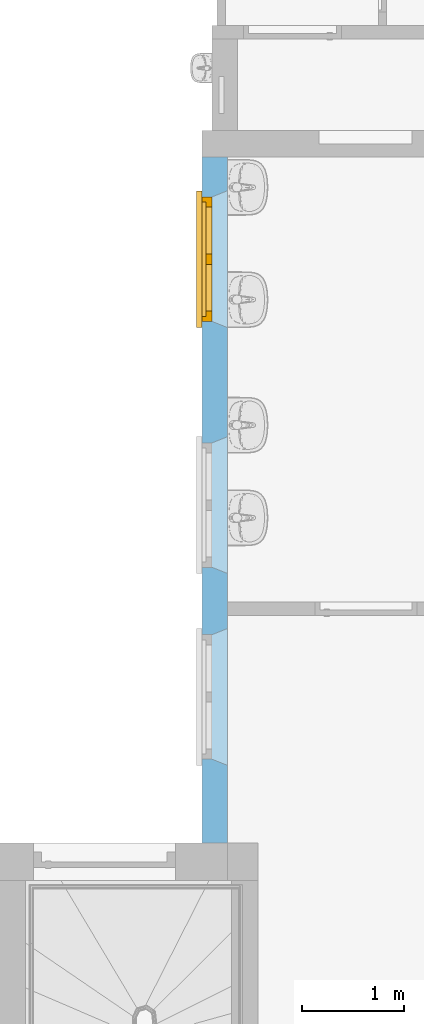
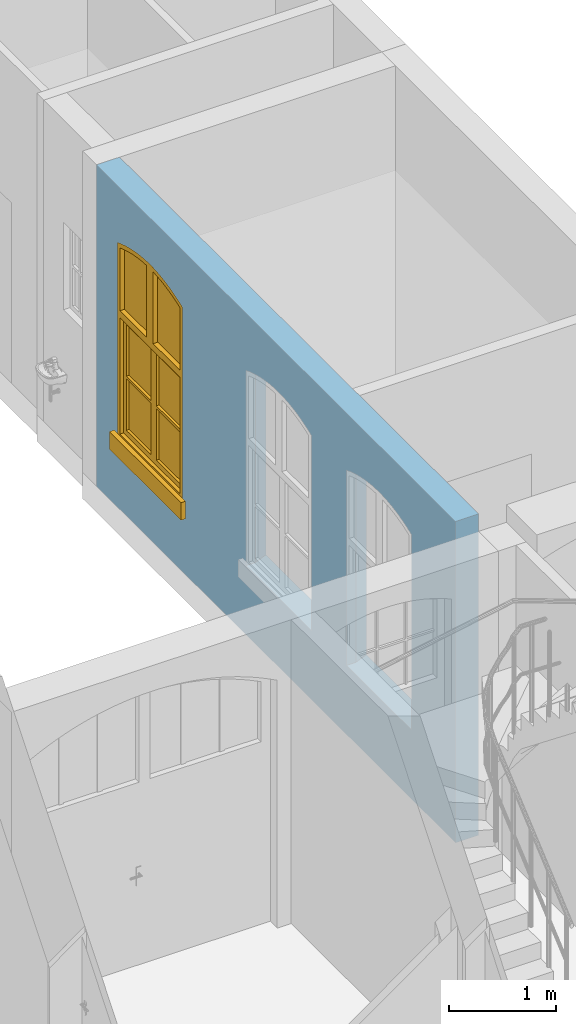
"""IFC4 building model written with IfcOpenShell, lengths in metres."""

import ifcopenshell
import ifcopenshell.guid

model = None  # the IFC model being written
_history = None  # IfcOwnerHistory: only IFC2X3 demands one
_inside = {}  # id of a spatial element -> (the spatial element, [elements in it])
_under = {}  # id of a project, library or spatial element -> (it, [spatial elements below it])
_declared = {}  # id of a project -> (the project, [libraries it declares])
_typed = {}  # id of a type object -> (the type object, [elements of that type])
_made_of = {}  # id of a material, layer set ... -> (it, [elements and type objects made of it])


def new_model(schema):
    """Start an empty IFC model of exactly this schema.

    Asked for "IFC4X3", IfcOpenShell would pick the latest addendum, in which some entities
    have other attributes; the version numbers below select the first issue.
    IFC2X3 requires an IfcOwnerHistory on every rooted entity: one is made here for all.
    """
    global model, _history
    if schema == "IFC4X3":
        model = ifcopenshell.file(schema_version=(4, 3, 0, 0))
    else:
        model = ifcopenshell.file(schema=schema)
    _inside.clear()
    _under.clear()
    _declared.clear()
    _typed.clear()
    _made_of.clear()
    _history = None
    if model.schema == "IFC2X3":
        org = make("IfcOrganization", Name="unknown")
        user = make(
            "IfcPersonAndOrganization",
            ThePerson=make("IfcPerson", FamilyName="unknown"),
            TheOrganization=org,
        )
        app = make(
            "IfcApplication",
            ApplicationDeveloper=org,
            Version="unknown",
            ApplicationFullName="unknown",
            ApplicationIdentifier="unknown",
        )
        _history = make(
            "IfcOwnerHistory",
            OwningUser=user,
            OwningApplication=app,
            ChangeAction="ADDED",
            CreationDate=0,
        )
    return model


def make(cls, **values):
    """One entity of the class cls with the attributes given. An attribute that is None is left unset."""
    return model.create_entity(
        cls, **{name: value for name, value in values.items() if value is not None}
    )


def entity(cls, *values):
    """Any entity or typed value of the class cls, its attributes in the order of the schema. None: left unset."""
    e = model.create_entity(cls)
    for i, value in enumerate(values):
        if value is not None:
            e[i] = value
    return e


def rooted(cls, **values):
    """An entity with a GlobalId (a new one), such as an element, a storey or a relation."""
    return make(cls, GlobalId=ifcopenshell.guid.new(), OwnerHistory=_history, **values)


def si_unit(unit_type, name, prefix=None):
    """IfcSIUnit, for example si_unit("LENGTHUNIT", "METRE", prefix="MILLI")."""
    return make("IfcSIUnit", UnitType=unit_type, Prefix=prefix, Name=name)


def converted_unit(unit_type, name, factor, base, dimensions=None, offset=None):
    """IfcConversionBasedUnit, such as the inch: factor (a typed value) times the base unit."""
    return make(
        "IfcConversionBasedUnit"
        if offset is None
        else "IfcConversionBasedUnitWithOffset",
        ConversionOffset=offset,
        Dimensions=None
        if dimensions is None
        else entity("IfcDimensionalExponents", *dimensions),
        UnitType=unit_type,
        Name=name,
        ConversionFactor=make(
            "IfcMeasureWithUnit", ValueComponent=factor, UnitComponent=base
        ),
    )


def derived_unit(unit_type, elements):
    """IfcDerivedUnit: a product of units, each with its exponent."""
    return make(
        "IfcDerivedUnit",
        Elements=[
            make("IfcDerivedUnitElement", Unit=unit, Exponent=power)
            for unit, power in elements
        ],
        UnitType=unit_type,
    )


def assignment(units):
    """IfcUnitAssignment: the units of a project."""
    return None if units is None else make("IfcUnitAssignment", Units=units)


def point(xyz):
    """IfcCartesianPoint."""
    return None if xyz is None else make("IfcCartesianPoint", Coordinates=xyz)


def direction(xyz):
    """IfcDirection."""
    return None if xyz is None else make("IfcDirection", DirectionRatios=xyz)


def frame(location, z_axis=None, x_axis=None):
    """IfcAxis2Placement3D, a coordinate frame: its origin and axes. An axis left out is left unset."""
    return make(
        "IfcAxis2Placement3D",
        Location=point(location),
        Axis=direction(z_axis),
        RefDirection=direction(x_axis),
    )


def frame_2d(location, x_axis=None):
    """IfcAxis2Placement2D, a coordinate frame in the plane: its origin and x axis."""
    return make(
        "IfcAxis2Placement2D", Location=point(location), RefDirection=direction(x_axis)
    )


def origin():
    """The frame at (0, 0, 0) with its axes left unset."""
    return frame((0.0, 0.0, 0.0))


def origin_with_axes():
    """The frame at (0, 0, 0) with the z axis (0, 0, 1) and the x axis (1, 0, 0) written out."""
    return frame((0.0, 0.0, 0.0), z_axis=(0.0, 0.0, 1.0), x_axis=(1.0, 0.0, 0.0))


def place(relative_to, where):
    """IfcLocalPlacement: puts the frame where relative to a parent placement (None: the world)."""
    return make(
        "IfcLocalPlacement", PlacementRelTo=relative_to, RelativePlacement=where
    )


def context(
    kind, dimensions, precision=None, world=None, true_north=None, identifier=None
):
    """IfcGeometricRepresentationContext, for example the 3D "Model" context."""
    return make(
        "IfcGeometricRepresentationContext",
        ContextIdentifier=identifier,
        ContextType=kind,
        CoordinateSpaceDimension=dimensions,
        Precision=precision,
        WorldCoordinateSystem=world,
        TrueNorth=true_north,
    )


def subcontext(parent, identifier, kind, view, scale=None):
    """IfcGeometricRepresentationSubContext, for example "Body" below "Model"."""
    return make(
        "IfcGeometricRepresentationSubContext",
        ContextIdentifier=identifier,
        ContextType=kind,
        ParentContext=parent,
        TargetScale=scale,
        TargetView=view,
    )


def project(units=None, contexts=None):
    """IfcProject with its units and contexts."""
    return rooted(
        "IfcProject",
        Name="project",
        RepresentationContexts=contexts,
        UnitsInContext=assignment(units),
    )


def spatial(cls, under=None, at=None, **own):
    """A site, building, storey or space (cls), placed at a placement, below another one or the project."""
    s = rooted(cls, ObjectPlacement=at, **own)
    if under is not None:
        _under.setdefault(under.id(), (under, []))[1].append(s)
    return s


def polyline(points):
    """IfcPolyline through the points."""
    return make("IfcPolyline", Points=[point(p) for p in points])


def profile(cls, at=None, kind="AREA", **sizes):
    """A parametric profile (cls). Its sizes go by their IFC names, for example OverallWidth=200.0."""
    return make(cls, ProfileType=kind, Position=at, **sizes)


def rectangle(**sizes):
    """IfcRectangleProfileDef."""
    return profile("IfcRectangleProfileDef", **sizes)


def outline(outer, holes=None, kind="AREA"):
    """IfcArbitraryClosedProfileDef: a profile drawn as a closed curve; with holes, ...WithVoids."""
    if holes is None:
        return make("IfcArbitraryClosedProfileDef", ProfileType=kind, OuterCurve=outer)
    return make(
        "IfcArbitraryProfileDefWithVoids",
        ProfileType=kind,
        OuterCurve=outer,
        InnerCurves=holes,
    )


def extrude(swept, where, along, depth):
    """IfcExtrudedAreaSolid: the profile swept, set in the frame where, extruded along a direction by depth."""
    return make(
        "IfcExtrudedAreaSolid",
        SweptArea=swept,
        Position=where,
        ExtrudedDirection=direction(along),
        Depth=depth,
    )


def faces_of(points, faces, orient=None, outer=None):
    """IfcFace entities. A face is a list of loops; a loop is a list of indices into points, from 0.

    orient and outer hold one flag for each loop. By default every Orientation is true, the
    first loop of a face is its IfcFaceOuterBound and the others are IfcFaceBound.
    """
    made = []
    for i, loops in enumerate(faces):
        bounds = []
        for j, loop in enumerate(loops):
            is_outer = j == 0 if outer is None else outer[i][j]
            bounds.append(
                make(
                    "IfcFaceOuterBound" if is_outer else "IfcFaceBound",
                    Bound=make("IfcPolyLoop", Polygon=[points[k] for k in loop]),
                    Orientation=True if orient is None else orient[i][j],
                )
            )
        made.append(make("IfcFace", Bounds=bounds))
    return made


def closed_shell(faces, orient=None, outer=None):
    """The faces of one IfcClosedShell. faceted_brep and surface_model build it on their shared points."""
    return ("IfcClosedShell", faces, orient, outer)


def open_shell(faces, orient=None, outer=None):
    """The faces of one IfcOpenShell. surface_model builds it on its shared points."""
    return ("IfcOpenShell", faces, orient, outer)


def surface_model(cls, points, shells):
    """IfcFaceBasedSurfaceModel or IfcShellBasedSurfaceModel (cls): surfaces that need not close."""
    shared = [point(p) for p in points]
    made = [make(c, CfsFaces=faces_of(shared, fs, o, b)) for c, fs, o, b in shells]
    if cls == "IfcFaceBasedSurfaceModel":
        return make(cls, FbsmFaces=made)
    return make(cls, SbsmBoundary=made)


def shape(context_of_items, identifier, shape_type, items):
    """IfcShapeRepresentation: the items that make up one representation, for example the "Body"."""
    return make(
        "IfcShapeRepresentation",
        ContextOfItems=context_of_items,
        RepresentationIdentifier=identifier,
        RepresentationType=shape_type,
        Items=items,
    )


def source(mapping_origin, context_of_items, identifier, shape_type, items):
    """IfcRepresentationMap: a shape defined once, which mapped items show again and again."""
    return make(
        "IfcRepresentationMap",
        MappingOrigin=mapping_origin,
        MappedRepresentation=shape(context_of_items, identifier, shape_type, items),
    )


def transform(
    local_origin,
    x_axis=None,
    y_axis=None,
    z_axis=None,
    scale=None,
    scale2=None,
    scale3=None,
    uniform=True,
):
    """IfcCartesianTransformationOperator3D, or its non-uniform kind. x_axis, y_axis, z_axis: its Axis1, 2, 3."""
    if uniform:
        return make(
            "IfcCartesianTransformationOperator3D",
            Axis1=direction(x_axis),
            Axis2=direction(y_axis),
            LocalOrigin=point(local_origin),
            Scale=scale,
            Axis3=direction(z_axis),
        )
    return make(
        "IfcCartesianTransformationOperator3DnonUniform",
        Axis1=direction(x_axis),
        Axis2=direction(y_axis),
        LocalOrigin=point(local_origin),
        Scale=scale,
        Axis3=direction(z_axis),
        Scale2=scale2,
        Scale3=scale3,
    )


def mapped(mapping_source, mapping_target):
    """IfcMappedItem: shows the shape of a source again, moved by a transform."""
    return make(
        "IfcMappedItem", MappingSource=mapping_source, MappingTarget=mapping_target
    )


def material(Name=None, Category=None):
    """IfcMaterial."""
    return make("IfcMaterial", Name=Name, Category=Category)


def layer(
    of_material, thickness, ventilated=None, Name=None, Category=None, Priority=None
):
    """IfcMaterialLayer: one layer of a wall or slab, of a material (None: an air gap)."""
    return make(
        "IfcMaterialLayer",
        Material=of_material,
        LayerThickness=thickness,
        IsVentilated=ventilated,
        Name=Name,
        Category=Category,
        Priority=Priority,
    )


def layer_set(layers, Name=None):
    """IfcMaterialLayerSet."""
    return make("IfcMaterialLayerSet", MaterialLayers=layers, LayerSetName=Name)


def layer_usage(for_layer_set, set_direction, sense, offset, extent=None):
    """IfcMaterialLayerSetUsage: how a layer set lies in its element."""
    return make(
        "IfcMaterialLayerSetUsage",
        ForLayerSet=for_layer_set,
        LayerSetDirection=set_direction,
        DirectionSense=sense,
        OffsetFromReferenceLine=offset,
        ReferenceExtent=extent,
    )


def made_of(thing, what):
    """Note that an element or type object is made of a material, layer set ...; save() writes the relation."""
    if what is not None:
        _made_of.setdefault(what.id(), (what, []))[1].append(thing)
    return thing


def element(
    cls,
    number,
    at=None,
    inside=None,
    cuts=None,
    type_object=None,
    material=None,
    context=None,
    identifier="Body",
    shape_type=None,
    held_by="IfcProductDefinitionShape",
    body=None,
    shapes=None,
    **own,
):
    """One element of the class cls, such as IfcWall. Its Tag is "e" and its number.

    at: its placement. inside: the storey or other place that contains it. cuts: it is an
    opening in that element (IfcRelVoidsElement). A single representation is given by context,
    identifier, shape_type and body (its items); several are given by shapes. held_by: the class
    of the entity that holds the representations. save() writes the other relations.
    """
    e = rooted(cls, Tag="e%d" % number, ObjectPlacement=at, **own)
    if body is not None:
        shapes = [shape(context, identifier, shape_type, body)]
    if shapes is not None:
        e.Representation = make(held_by, Representations=shapes)
    if inside is not None:
        _inside.setdefault(inside.id(), (inside, []))[1].append(e)
    if cuts is not None:
        rooted(
            "IfcRelVoidsElement", RelatingBuildingElement=cuts, RelatedOpeningElement=e
        )
    if type_object is not None:
        _typed.setdefault(type_object.id(), (type_object, []))[1].append(e)
    return made_of(e, material)


def fill(opening, filler):
    """IfcRelFillsElement: the door or window that sits in an opening."""
    return rooted(
        "IfcRelFillsElement",
        RelatingOpeningElement=opening,
        RelatedBuildingElement=filler,
    )


def aggregate(whole, parts):
    """IfcRelAggregates: a whole, such as a stair, and the parts it consists of."""
    return rooted("IfcRelAggregates", RelatingObject=whole, RelatedObjects=parts)


def save(model, path):
    """Write the relations noted so far, then the file.

    IfcRelAggregates (storeys below a building ...), IfcRelContainedInSpatialStructure (elements
    in a storey), IfcRelDefinesByType, IfcRelAssociatesMaterial and IfcRelDeclares: one each for
    every whole, place, type object, material and project.
    """
    for whole, parts in _under.values():
        aggregate(whole, parts)
    for where, things in _inside.values():
        rooted(
            "IfcRelContainedInSpatialStructure",
            RelatedElements=things,
            RelatingStructure=where,
        )
    for kind, things in _typed.values():
        rooted("IfcRelDefinesByType", RelatedObjects=things, RelatingType=kind)
    for what, things in _made_of.values():
        rooted("IfcRelAssociatesMaterial", RelatedObjects=things, RelatingMaterial=what)
    for by, libraries in _declared.values():
        rooted("IfcRelDeclares", RelatingContext=by, RelatedDefinitions=libraries)
    model.write(path)


model = new_model("IFC4")

# Units and contexts
model_context = context("Model", 3, precision=1e-05, world=origin())
body_context = subcontext(model_context, "Body", "Model", "MODEL_VIEW")
ifc_project = project(units=[si_unit("LENGTHUNIT", "METRE"), si_unit("AREAUNIT", "SQUARE_METRE"), si_unit("VOLUMEUNIT", "CUBIC_METRE"), si_unit("MASSUNIT", "GRAM", prefix="KILO"), converted_unit("PLANEANGLEUNIT", "DEGREE", entity("IfcPlaneAngleMeasure", 0.0174532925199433), si_unit("PLANEANGLEUNIT", "RADIAN"), dimensions=[0, 0, 0, 0, 0, 0, 0]), derived_unit("THERMALTRANSMITTANCEUNIT", [(si_unit("POWERUNIT", "WATT"), 1), (si_unit("THERMODYNAMICTEMPERATUREUNIT", "KELVIN"), -1), (si_unit("LENGTHUNIT", "METRE"), -2)]), derived_unit("VOLUMETRICFLOWRATEUNIT", [(si_unit("LENGTHUNIT", "METRE"), 3), (converted_unit("TIMEUNIT", "hour", entity("IfcTimeMeasure", 3600.0), si_unit("TIMEUNIT", "SECOND"), dimensions=[0, 0, 1, 0, 0, 0, 0]), -1), (si_unit("LENGTHUNIT", "METRE"), -1)])], contexts=[model_context])

# Building, storeys
building_placement = place(None, origin())
building = spatial("IfcBuilding", under=ifc_project, at=building_placement, Name="Bestandsgebäude A - Sporthalle / Wohnhaus (TB 100-499)   ANPASSEN !!!", CompositionType="ELEMENT")
storey_1_placement = place(building_placement, origin())
storey_1 = spatial("IfcBuildingStorey", under=building, at=storey_1_placement, Name="Geb. A Erdgeschoss (TB 200-249)", CompositionType="ELEMENT", Elevation=0.0)
storey_2_placement = place(storey_1_placement, origin())
storey_2 = spatial("IfcBuildingStorey", under=storey_1, at=storey_2_placement, Name="Architektur (TB 200-209)", CompositionType="PARTIAL")

# Wall, openings, window
ifc_material = material(Name="concrete")
ifc_layer = layer(ifc_material, 0.25)
ifc_layer_set = layer_set([ifc_layer])
ifc_layer_usage = layer_usage(ifc_layer_set, "AXIS2", "POSITIVE", 0.0)
wall_placement = place(storey_2_placement, frame((-3.49000000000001, 15.97, 0.0), z_axis=(0.0, 0.0, 1.0), x_axis=(-2.70682946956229e-16, -1.0, 0.0)))
wall = element("IfcWall", 1, at=wall_placement, inside=storey_2, material=ifc_layer_usage, Name="reinforced - bearing", PredefinedType="USERDEFINED", context=body_context, shape_type="SweptSolid", body=[
    extrude(rectangle(XDim=6.72, YDim=0.25, at=frame_2d((3.36, 0.125), x_axis=(1.0, 0.0))), origin_with_axes(), (0.0, 0.0, 1.0), 3.67),
])
opening_1_placement = place(wall_placement, frame((5.96, 0.25, 0.79), z_axis=(0.0, 0.0, 1.0), x_axis=(-1.0, 6.36306927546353e-17, 0.0)))
element("IfcOpeningElement", 2, at=opening_1_placement, cuts=wall, Name="Wall Niche", ObjectType="Opening", context=body_context, shape_type="SweptSolid", body=[
    extrude(outline(polyline([(0.0, 0.0), (1.34000000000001, 0.0), (1.28000000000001, 0.15), (0.0600000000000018, 0.15), (0.0, 0.0)])), origin_with_axes(), (0.0, 0.0, 1.0), 2.3),
])
opening_2_placement = place(wall_placement, frame((4.08, 0.25, 0.79), z_axis=(0.0, 0.0, 1.0), x_axis=(-1.0, 6.36306927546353e-17, 0.0)))
element("IfcOpeningElement", 3, at=opening_2_placement, cuts=wall, Name="Wall Niche", ObjectType="Opening", context=body_context, shape_type="SweptSolid", body=[
    extrude(outline(polyline([(0.0, 0.0), (1.34000000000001, 0.0), (1.28000000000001, 0.15), (0.0600000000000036, 0.15), (0.0, 0.0)])), origin_with_axes(), (0.0, 0.0, 1.0), 2.3),
])
opening_3_placement = place(wall_placement, frame((1.67, 0.25, 0.79), z_axis=(0.0, 0.0, 1.0), x_axis=(-1.0, -2.75733001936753e-16, 0.0)))
element("IfcOpeningElement", 4, at=opening_3_placement, cuts=wall, Name="Wall Niche", ObjectType="Opening", context=body_context, shape_type="SweptSolid", body=[
    extrude(outline(polyline([(0.0, 0.0), (1.34000000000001, 0.0), (1.28000000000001, 0.15), (0.06, 0.15), (0.0, 0.0)])), origin_with_axes(), (0.0, 0.0, 1.0), 2.3),
])
opening_4_placement = place(wall_placement, frame((4.68, 0.0, 0.79), z_axis=(0.0, 1.0, 0.0), x_axis=(0.0, 0.0, 1.0)))
element("IfcOpeningElement", 5, at=opening_4_placement, cuts=wall, Name="Window opening", PredefinedType="OPENING", context=body_context, shape_type="SweptSolid", body=[
    extrude(outline(polyline([(2.23, 1.22), (2.24529668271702, 1.18119974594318), (2.25958346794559, 1.14201638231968), (2.27285077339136, 1.102476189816), (2.28508970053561, 1.06260568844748), (2.29629204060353, 1.02243161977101), (2.30645028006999, 0.981980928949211), (2.31555760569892, 0.941280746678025), (2.32360790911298, 0.900358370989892), (2.33059579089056, 0.859241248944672), (2.33651656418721, 0.817956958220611), (2.34136625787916, 0.776533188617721), (2.34514161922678, 0.734997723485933), (2.34784011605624, 0.693378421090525), (2.34945993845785, 0.65170319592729), (2.35, 0.610000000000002), (2.34945993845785, 0.568296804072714), (2.34784011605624, 0.52662157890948), (2.34514161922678, 0.485002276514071), (2.34136625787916, 0.443466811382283), (2.33651656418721, 0.40204304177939), (2.33059579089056, 0.360758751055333), (2.32360790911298, 0.31964162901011), (2.31555760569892, 0.278719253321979), (2.30645028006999, 0.23801907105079), (2.29629204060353, 0.197568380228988), (2.2850897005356, 0.15739431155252), (2.27285077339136, 0.117523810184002), (2.25958346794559, 0.0779836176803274), (2.24529668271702, 0.0388002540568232), (2.23, 0.0), (0.0, 0.0), (0.0, 1.22), (2.23, 1.22)])), origin_with_axes(), (0.0, 0.0, 1.0), 0.25),
])
opening_5_placement = place(wall_placement, frame((2.79999999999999, 0.0, 0.79), z_axis=(0.0, 1.0, 0.0), x_axis=(0.0, 0.0, 1.0)))
element("IfcOpeningElement", 6, at=opening_5_placement, cuts=wall, Name="Window opening", PredefinedType="OPENING", context=body_context, shape_type="SweptSolid", body=[
    extrude(outline(polyline([(2.23, 1.22000000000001), (2.24529668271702, 1.18119974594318), (2.25958346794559, 1.14201638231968), (2.27285077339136, 1.102476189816), (2.2850897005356, 1.06260568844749), (2.29629204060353, 1.02243161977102), (2.30645028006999, 0.981980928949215), (2.31555760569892, 0.941280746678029), (2.32360790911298, 0.900358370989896), (2.33059579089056, 0.859241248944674), (2.33651656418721, 0.817956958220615), (2.34136625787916, 0.776533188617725), (2.34514161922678, 0.734997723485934), (2.34784011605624, 0.693378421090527), (2.34945993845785, 0.651703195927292), (2.35, 0.610000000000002), (2.34945993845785, 0.568296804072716), (2.34784011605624, 0.52662157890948), (2.34514161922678, 0.485002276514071), (2.34136625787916, 0.443466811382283), (2.33651656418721, 0.402043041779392), (2.33059579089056, 0.360758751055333), (2.32360790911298, 0.319641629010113), (2.31555760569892, 0.278719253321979), (2.30645028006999, 0.23801907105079), (2.29629204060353, 0.19756838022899), (2.2850897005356, 0.15739431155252), (2.27285077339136, 0.117523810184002), (2.25958346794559, 0.0779836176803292), (2.24529668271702, 0.0388002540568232), (2.23, 0.0), (0.0, 0.0), (0.0, 1.22000000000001), (2.23, 1.22000000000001)])), origin_with_axes(), (0.0, 0.0, 1.0), 0.25),
])
opening_6_placement = place(wall_placement, frame((0.389999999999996, 0.0, 0.79), z_axis=(-2.27373675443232e-16, 1.0, 0.0), x_axis=(0.0, 0.0, 1.0)))
opening_6 = element("IfcOpeningElement", 7, at=opening_6_placement, cuts=wall, Name="Window opening", PredefinedType="OPENING", context=body_context, shape_type="SweptSolid", body=[
    extrude(outline(polyline([(2.23, 1.22), (2.24529668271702, 1.18119974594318), (2.25958346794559, 1.14201638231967), (2.27285077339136, 1.102476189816), (2.28508970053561, 1.06260568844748), (2.29629204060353, 1.02243161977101), (2.30645028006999, 0.981980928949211), (2.31555760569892, 0.941280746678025), (2.32360790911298, 0.900358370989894), (2.33059579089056, 0.859241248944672), (2.33651656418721, 0.817956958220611), (2.34136625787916, 0.776533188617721), (2.34514161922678, 0.734997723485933), (2.34784011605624, 0.693378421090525), (2.34945993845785, 0.65170319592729), (2.35, 0.610000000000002), (2.34945993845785, 0.568296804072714), (2.34784011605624, 0.526621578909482), (2.34514161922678, 0.485002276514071), (2.34136625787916, 0.443466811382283), (2.33651656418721, 0.40204304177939), (2.33059579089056, 0.360758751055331), (2.32360790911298, 0.31964162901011), (2.31555760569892, 0.278719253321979), (2.30645028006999, 0.23801907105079), (2.29629204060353, 0.19756838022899), (2.2850897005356, 0.15739431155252), (2.27285077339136, 0.117523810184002), (2.25958346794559, 0.0779836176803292), (2.24529668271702, 0.0388002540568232), (2.23, 0.0), (0.0, 0.0), (0.0, 1.22), (2.23, 1.22)])), origin_with_axes(), (0.0, 0.0, 1.0), 0.25),
])
shared_shape = source(origin_with_axes(), body_context, "Body", "SurfaceModel", [
    surface_model("IfcShellBasedSurfaceModel", [(1.28, 0.15, -0.15), (1.28, 0.0999999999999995, -0.15), (1.28, 0.0999999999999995, 0.05), (1.28, 0.15, 0.05), (-0.0600000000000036, 0.0999999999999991, -0.15), (-0.0600000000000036, 0.149999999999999, -0.15), (-0.0600000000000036, 0.149999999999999, 0.0500000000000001), (-0.0600000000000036, 0.0999999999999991, 0.0500000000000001)], [closed_shell([[[0, 1, 2, 3]], [[4, 5, 6, 7]], [[1, 0, 5, 4]], [[2, 1, 4, 7]], [[3, 2, 7, 6]], [[0, 3, 6, 5]]], orient=[[False], [False], [False], [False], [False], [False]])]),
    surface_model("IfcShellBasedSurfaceModel", [(1.181199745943, 0.0, 2.245296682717), (1.22, 0.0, 2.23), (1.22, 0.0, 0.0), (0.0, 0.0, 0.0), (0.0, 0.0, 2.23), (0.0388002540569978, 0.0, 2.245296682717), (0.0779836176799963, 0.0, 2.259583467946), (0.117523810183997, 0.0, 2.272850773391), (0.157394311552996, 0.0, 2.285089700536), (0.197568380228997, 0.0, 2.296292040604), (0.238019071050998, 0.0, 2.30645028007), (0.278719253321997, 0.0, 2.315557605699), (0.319641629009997, 0.0, 2.323607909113), (0.360758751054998, 0.0, 2.330595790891), (0.402043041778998, 0.0, 2.336516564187), (0.443466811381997, 0.0, 2.341366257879), (0.485002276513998, 0.0, 2.345141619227), (0.526621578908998, 0.0, 2.347840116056), (0.568296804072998, 0.0, 2.349459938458), (0.609999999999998, 0.0, 2.35), (0.651703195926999, 0.0, 2.349459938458), (0.693378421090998, 0.0, 2.347840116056), (0.734997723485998, 0.0, 2.345141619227), (0.776533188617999, 0.0, 2.341366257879), (0.817956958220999, 0.0, 2.336516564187), (0.859241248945, 0.0, 2.330595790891), (0.900358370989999, 0.0, 2.323607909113), (0.941280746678, 0.0, 2.315557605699), (0.981980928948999, 0.0, 2.30645028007), (1.022431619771, 0.0, 2.296292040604), (1.062605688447, 0.0, 2.285089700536), (1.102476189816, 0.0, 2.272850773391), (1.14201638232, 0.0, 2.259583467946), (1.17, 0.0, 2.19596670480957), (1.16346372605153, 0.0, 2.19854357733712), (1.1254970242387, 0.0, 2.21238675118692), (1.08718457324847, 0.0, 2.22524210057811), (1.04855206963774, 0.0, 2.23710100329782), (1.00962542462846, 0.0, 2.24795550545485), (0.970430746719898, 0.0, 2.25779832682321), (0.930994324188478, 0.0, 2.26662286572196), (0.891342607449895, 0.0, 2.27442320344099), (0.851502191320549, 0.0, 2.28119410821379), (0.811499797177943, 0.0, 2.28693103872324), (0.771362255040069, 0.0, 2.29163014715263), (0.731116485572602, 0.0, 2.29528828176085), (0.690789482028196, 0.0, 2.29790298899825), (0.650408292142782, 0.0, 2.2994725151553), (0.609999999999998, 0.0, 2.29999580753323), (0.569591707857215, 0.0, 2.2994725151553), (0.5292105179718, 0.0, 2.29790298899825), (0.488883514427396, 0.0, 2.29528828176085), (0.448637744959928, 0.0, 2.29163014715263), (0.408500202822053, 0.0, 2.28693103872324), (0.368497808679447, 0.0, 2.28119410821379), (0.328657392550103, 0.0, 2.27442320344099), (0.289005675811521, 0.0, 2.26662286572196), (0.249569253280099, 0.0, 2.25779832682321), (0.210374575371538, 0.0, 2.24795550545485), (0.171447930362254, 0.0, 2.23710100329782), (0.132815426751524, 0.0, 2.22524210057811), (0.0945029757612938, 0.0, 2.21238675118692), (0.0565362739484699, 0.0, 2.19854357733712), (0.0499999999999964, 0.0, 2.19596670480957), (0.0499999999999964, 0.0, 0.07), (1.17, 0.0, 0.07), (1.22, 0.0999999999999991, 2.23), (1.181199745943, 0.0999999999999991, 2.245296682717), (1.14201638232, 0.0999999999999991, 2.259583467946), (1.102476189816, 0.0999999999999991, 2.272850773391), (1.062605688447, 0.0999999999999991, 2.285089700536), (1.022431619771, 0.0999999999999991, 2.296292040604), (0.981980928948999, 0.0999999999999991, 2.30645028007), (0.941280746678, 0.0999999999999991, 2.315557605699), (0.900358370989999, 0.0999999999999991, 2.323607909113), (0.859241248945, 0.0999999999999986, 2.330595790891), (0.817956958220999, 0.0999999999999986, 2.336516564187), (0.776533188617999, 0.0999999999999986, 2.341366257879), (0.734997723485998, 0.0999999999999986, 2.345141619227), (0.693378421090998, 0.0999999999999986, 2.347840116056), (0.651703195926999, 0.0999999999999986, 2.349459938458), (0.609999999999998, 0.0999999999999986, 2.35), (0.568296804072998, 0.0999999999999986, 2.349459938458), (0.526621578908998, 0.0999999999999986, 2.347840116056), (0.485002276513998, 0.0999999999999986, 2.345141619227), (0.443466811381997, 0.0999999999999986, 2.341366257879), (0.402043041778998, 0.0999999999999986, 2.336516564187), (0.360758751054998, 0.0999999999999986, 2.330595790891), (0.319641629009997, 0.0999999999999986, 2.323607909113), (0.278719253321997, 0.0999999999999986, 2.315557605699), (0.238019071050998, 0.0999999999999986, 2.30645028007), (0.197568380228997, 0.0999999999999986, 2.296292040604), (0.157394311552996, 0.0999999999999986, 2.285089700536), (0.117523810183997, 0.0999999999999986, 2.272850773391), (0.0779836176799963, 0.0999999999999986, 2.259583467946), (0.0388002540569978, 0.0999999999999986, 2.245296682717), (0.0, 0.0999999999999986, 2.23), (0.0, 0.0999999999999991, 0.0), (1.22, 0.0999999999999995, 0.0), (1.16346372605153, 0.0999999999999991, 2.19854357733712), (1.17, 0.0999999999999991, 2.19596670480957), (1.17, 0.0999999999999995, 0.07), (0.0499999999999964, 0.0999999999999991, 0.07), (0.0499999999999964, 0.0999999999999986, 2.19596670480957), (0.0565362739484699, 0.0999999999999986, 2.19854357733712), (0.0945029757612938, 0.0999999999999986, 2.21238675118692), (0.132815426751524, 0.0999999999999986, 2.22524210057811), (0.171447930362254, 0.0999999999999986, 2.23710100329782), (0.210374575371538, 0.0999999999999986, 2.24795550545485), (0.249569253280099, 0.0999999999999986, 2.25779832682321), (0.289005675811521, 0.0999999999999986, 2.26662286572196), (0.328657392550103, 0.0999999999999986, 2.27442320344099), (0.368497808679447, 0.0999999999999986, 2.28119410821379), (0.408500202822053, 0.0999999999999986, 2.28693103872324), (0.448637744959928, 0.0999999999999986, 2.29163014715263), (0.488883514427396, 0.0999999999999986, 2.29528828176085), (0.5292105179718, 0.0999999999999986, 2.29790298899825), (0.569591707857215, 0.0999999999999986, 2.2994725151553), (0.609999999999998, 0.0999999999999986, 2.29999580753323), (0.650408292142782, 0.0999999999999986, 2.2994725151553), (0.690789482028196, 0.0999999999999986, 2.29790298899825), (0.731116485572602, 0.0999999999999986, 2.29528828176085), (0.771362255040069, 0.0999999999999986, 2.29163014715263), (0.811499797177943, 0.0999999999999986, 2.28693103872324), (0.851502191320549, 0.0999999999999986, 2.28119410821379), (0.891342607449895, 0.0999999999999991, 2.27442320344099), (0.930994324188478, 0.0999999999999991, 2.26662286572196), (0.970430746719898, 0.0999999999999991, 2.25779832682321), (1.00962542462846, 0.0999999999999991, 2.24795550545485), (1.04855206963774, 0.0999999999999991, 2.23710100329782), (1.08718457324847, 0.0999999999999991, 2.22524210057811), (1.1254970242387, 0.0999999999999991, 2.21238675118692)], [closed_shell([[[0, 1, 2, 3, 4, 5, 6, 7, 8, 9, 10, 11, 12, 13, 14, 15, 16, 17, 18, 19, 20, 21, 22, 23, 24, 25, 26, 27, 28, 29, 30, 31, 32], [33, 34, 35, 36, 37, 38, 39, 40, 41, 42, 43, 44, 45, 46, 47, 48, 49, 50, 51, 52, 53, 54, 55, 56, 57, 58, 59, 60, 61, 62, 63, 64, 65]], [[66, 67, 68, 69, 70, 71, 72, 73, 74, 75, 76, 77, 78, 79, 80, 81, 82, 83, 84, 85, 86, 87, 88, 89, 90, 91, 92, 93, 94, 95, 96, 97, 98], [99, 100, 101, 102, 103, 104, 105, 106, 107, 108, 109, 110, 111, 112, 113, 114, 115, 116, 117, 118, 119, 120, 121, 122, 123, 124, 125, 126, 127, 128, 129, 130, 131]], [[1, 0, 67, 66]], [[2, 1, 66, 98]], [[3, 2, 98, 97]], [[4, 3, 97, 96]], [[5, 4, 96, 95]], [[6, 5, 95, 94]], [[7, 6, 94, 93]], [[8, 7, 93, 92]], [[9, 8, 92, 91]], [[10, 9, 91, 90]], [[11, 10, 90, 89]], [[12, 11, 89, 88]], [[13, 12, 88, 87]], [[14, 13, 87, 86]], [[15, 14, 86, 85]], [[16, 15, 85, 84]], [[17, 16, 84, 83]], [[18, 17, 83, 82]], [[19, 18, 82, 81]], [[20, 19, 81, 80]], [[21, 20, 80, 79]], [[22, 21, 79, 78]], [[23, 22, 78, 77]], [[24, 23, 77, 76]], [[25, 24, 76, 75]], [[26, 25, 75, 74]], [[27, 26, 74, 73]], [[28, 27, 73, 72]], [[29, 28, 72, 71]], [[30, 29, 71, 70]], [[31, 30, 70, 69]], [[32, 31, 69, 68]], [[0, 32, 68, 67]], [[33, 100, 99, 34]], [[65, 101, 100, 33]], [[64, 102, 101, 65]], [[63, 103, 102, 64]], [[62, 104, 103, 63]], [[61, 105, 104, 62]], [[60, 106, 105, 61]], [[59, 107, 106, 60]], [[58, 108, 107, 59]], [[57, 109, 108, 58]], [[56, 110, 109, 57]], [[55, 111, 110, 56]], [[54, 112, 111, 55]], [[53, 113, 112, 54]], [[52, 114, 113, 53]], [[51, 115, 114, 52]], [[50, 116, 115, 51]], [[49, 117, 116, 50]], [[48, 118, 117, 49]], [[47, 119, 118, 48]], [[46, 120, 119, 47]], [[45, 121, 120, 46]], [[44, 122, 121, 45]], [[43, 123, 122, 44]], [[42, 124, 123, 43]], [[41, 125, 124, 42]], [[40, 126, 125, 41]], [[39, 127, 126, 40]], [[38, 128, 127, 39]], [[37, 129, 128, 38]], [[36, 130, 129, 37]], [[35, 131, 130, 36]], [[34, 99, 131, 35]]], orient=[[False, False], [False, False], [False], [False], [False], [False], [False], [False], [False], [False], [False], [False], [False], [False], [False], [False], [False], [False], [False], [False], [False], [False], [False], [False], [False], [False], [False], [False], [False], [False], [False], [False], [False], [False], [False], [False], [False], [False], [False], [False], [False], [False], [False], [False], [False], [False], [False], [False], [False], [False], [False], [False], [False], [False], [False], [False], [False], [False], [False], [False], [False], [False], [False], [False], [False], [False], [False], [False]])]),
    surface_model("IfcShellBasedSurfaceModel", [(1.17, 0.0, 1.48), (1.17, 0.0, 1.4), (0.0499999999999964, 0.0, 1.4), (0.0499999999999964, 0.0, 1.48), (1.17, 0.0999999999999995, 1.4), (1.17, 0.0999999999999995, 1.48), (0.0499999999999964, 0.0999999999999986, 1.48), (0.0499999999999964, 0.0999999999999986, 1.4)], [closed_shell([[[0, 1, 2, 3]], [[4, 5, 6, 7]], [[1, 0, 5, 4]], [[2, 1, 4, 7]], [[3, 2, 7, 6]], [[0, 3, 6, 5]]], orient=[[False], [False], [False], [False], [False], [False]])]),
    surface_model("IfcShellBasedSurfaceModel", [(0.669999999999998, 0.0, 2.29871102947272), (0.669999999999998, 0.0, 1.48), (0.549999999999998, 0.0, 1.48), (0.549999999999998, 0.0, 2.29871102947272), (0.569591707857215, 0.0, 2.2994725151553), (0.609999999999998, 0.0, 2.29999580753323), (0.650408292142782, 0.0, 2.2994725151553), (0.669999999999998, 0.0999999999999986, 1.48), (0.669999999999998, 0.0999999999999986, 2.29871102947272), (0.650408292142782, 0.0999999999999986, 2.2994725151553), (0.609999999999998, 0.0999999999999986, 2.29999580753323), (0.569591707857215, 0.0999999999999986, 2.2994725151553), (0.549999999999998, 0.0999999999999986, 2.29871102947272), (0.549999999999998, 0.0999999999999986, 1.48)], [closed_shell([[[0, 1, 2, 3, 4, 5, 6]], [[7, 8, 9, 10, 11, 12, 13]], [[1, 0, 8, 7]], [[2, 1, 7, 13]], [[3, 2, 13, 12]], [[4, 3, 12, 11]], [[5, 4, 11, 10]], [[6, 5, 10, 9]], [[0, 6, 9, 8]]], orient=[[False], [False], [False], [False], [False], [False], [False], [False], [False]])]),
    surface_model("IfcShellBasedSurfaceModel", [(0.610499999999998, 0.0, 0.07), (0.610499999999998, 0.0, 1.4), (1.17, 0.0, 1.4), (1.17, 0.0, 0.07), (0.660499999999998, 0.0, 1.34), (0.660499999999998, 0.0, 0.13), (1.12, 0.0, 0.13), (1.12, 0.0, 1.34), (0.610499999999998, 0.0599999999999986, 1.4), (0.610499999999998, 0.0599999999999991, 0.07), (1.17, 0.0599999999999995, 0.07), (1.17, 0.0599999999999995, 1.4), (0.660499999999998, 0.0599999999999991, 0.13), (0.660499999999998, 0.0599999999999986, 1.34), (1.12, 0.0599999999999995, 1.34), (1.12, 0.0599999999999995, 0.13)], [closed_shell([[[0, 1, 2, 3], [4, 5, 6, 7]], [[8, 9, 10, 11], [12, 13, 14, 15]], [[1, 0, 9, 8]], [[2, 1, 8, 11]], [[3, 2, 11, 10]], [[0, 3, 10, 9]], [[4, 13, 12, 5]], [[7, 14, 13, 4]], [[6, 15, 14, 7]], [[5, 12, 15, 6]]], orient=[[False, False], [False, False], [False], [False], [False], [False], [False], [False], [False], [False]])]),
    surface_model("IfcShellBasedSurfaceModel", [(0.609499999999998, 0.0, 1.4), (0.609499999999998, 0.0, 0.07), (0.0499999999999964, 0.0, 0.07), (0.0499999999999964, 0.0, 1.4), (0.559499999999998, 0.0, 0.13), (0.559499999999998, 0.0, 1.34), (0.0999999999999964, 0.0, 1.34), (0.0999999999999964, 0.0, 0.13), (0.609499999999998, 0.0599999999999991, 0.07), (0.609499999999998, 0.0599999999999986, 1.4), (0.0499999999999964, 0.0599999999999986, 1.4), (0.0499999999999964, 0.0599999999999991, 0.07), (0.559499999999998, 0.0599999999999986, 1.34), (0.559499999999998, 0.0599999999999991, 0.13), (0.0999999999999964, 0.0599999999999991, 0.13), (0.0999999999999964, 0.0599999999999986, 1.34)], [closed_shell([[[0, 1, 2, 3], [4, 5, 6, 7]], [[8, 9, 10, 11], [12, 13, 14, 15]], [[1, 0, 9, 8]], [[2, 1, 8, 11]], [[3, 2, 11, 10]], [[0, 3, 10, 9]], [[4, 13, 12, 5]], [[7, 14, 13, 4]], [[6, 15, 14, 7]], [[5, 12, 15, 6]]], orient=[[False, False], [False, False], [False], [False], [False], [False], [False], [False], [False], [False]])]),
    surface_model("IfcShellBasedSurfaceModel", [(0.559499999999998, 0.0, 0.75), (0.559499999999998, 0.0, 0.72), (0.0999999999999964, 0.0, 0.72), (0.0999999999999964, 0.0, 0.75), (0.559499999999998, 0.0599999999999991, 0.72), (0.559499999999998, 0.0599999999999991, 0.75), (0.0999999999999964, 0.0599999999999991, 0.75), (0.0999999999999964, 0.0599999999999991, 0.72)], [closed_shell([[[0, 1, 2, 3]], [[4, 5, 6, 7]], [[1, 0, 5, 4]], [[2, 1, 4, 7]], [[3, 2, 7, 6]], [[0, 3, 6, 5]]], orient=[[False], [False], [False], [False], [False], [False]])]),
    surface_model("IfcShellBasedSurfaceModel", [(1.12, 0.0, 0.75), (1.12, 0.0, 0.72), (0.660499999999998, 0.0, 0.72), (0.660499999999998, 0.0, 0.75), (1.12, 0.0599999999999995, 0.72), (1.12, 0.0599999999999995, 0.75), (0.660499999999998, 0.0599999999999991, 0.75), (0.660499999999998, 0.0599999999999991, 0.72)], [closed_shell([[[0, 1, 2, 3]], [[4, 5, 6, 7]], [[1, 0, 5, 4]], [[2, 1, 4, 7]], [[3, 2, 7, 6]], [[0, 3, 6, 5]]], orient=[[False], [False], [False], [False], [False], [False]])]),
    surface_model("IfcShellBasedSurfaceModel", [(1.16346372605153, 0.0499999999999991, 2.19854357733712), (1.17, 0.0499999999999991, 2.19596670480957), (1.17, 0.0499999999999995, 1.48), (0.669999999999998, 0.0499999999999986, 1.48), (0.669999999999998, 0.0499999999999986, 2.29871102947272), (0.690789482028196, 0.0499999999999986, 2.29790298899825), (0.731116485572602, 0.0499999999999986, 2.29528828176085), (0.771362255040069, 0.0499999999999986, 2.29163014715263), (0.811499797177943, 0.0499999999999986, 2.28693103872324), (0.851502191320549, 0.0499999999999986, 2.28119410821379), (0.891342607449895, 0.0499999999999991, 2.27442320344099), (0.930994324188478, 0.0499999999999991, 2.26662286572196), (0.970430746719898, 0.0499999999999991, 2.25779832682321), (1.00962542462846, 0.0499999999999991, 2.24795550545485), (1.04855206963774, 0.0499999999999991, 2.23710100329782), (1.08718457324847, 0.0499999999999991, 2.22524210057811), (1.1254970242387, 0.0499999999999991, 2.21238675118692)], [open_shell([[[0, 1, 2, 3, 4, 5, 6, 7, 8, 9, 10, 11, 12, 13, 14, 15, 16]]], orient=[[False]])]),
    surface_model("IfcShellBasedSurfaceModel", [(0.5292105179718, 0.0499999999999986, 2.29790298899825), (0.549999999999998, 0.0499999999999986, 2.29871102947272), (0.549999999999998, 0.0499999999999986, 1.48), (0.0499999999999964, 0.0499999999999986, 1.48), (0.0499999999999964, 0.0499999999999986, 2.19596670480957), (0.0565362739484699, 0.0499999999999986, 2.19854357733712), (0.0945029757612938, 0.0499999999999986, 2.21238675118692), (0.132815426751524, 0.0499999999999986, 2.22524210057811), (0.171447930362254, 0.0499999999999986, 2.23710100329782), (0.210374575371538, 0.0499999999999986, 2.24795550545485), (0.249569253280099, 0.0499999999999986, 2.25779832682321), (0.289005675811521, 0.0499999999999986, 2.26662286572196), (0.328657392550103, 0.0499999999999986, 2.27442320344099), (0.368497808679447, 0.0499999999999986, 2.28119410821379), (0.408500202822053, 0.0499999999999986, 2.28693103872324), (0.448637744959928, 0.0499999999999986, 2.29163014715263), (0.488883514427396, 0.0499999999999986, 2.29528828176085)], [open_shell([[[0, 1, 2, 3, 4, 5, 6, 7, 8, 9, 10, 11, 12, 13, 14, 15, 16]]], orient=[[False]])]),
    surface_model("IfcShellBasedSurfaceModel", [(0.559499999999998, 0.0299999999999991, 0.72), (0.559499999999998, 0.0299999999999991, 0.13), (0.0999999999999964, 0.0299999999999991, 0.13), (0.0999999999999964, 0.0299999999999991, 0.72)], [open_shell([[[0, 1, 2, 3]]], orient=[[False]])]),
    surface_model("IfcShellBasedSurfaceModel", [(0.0999999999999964, 0.0299999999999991, 0.75), (0.0999999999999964, 0.0299999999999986, 1.34), (0.559499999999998, 0.0299999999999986, 1.34), (0.559499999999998, 0.0299999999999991, 0.75)], [open_shell([[[0, 1, 2, 3]]], orient=[[False]])]),
    surface_model("IfcShellBasedSurfaceModel", [(1.12, 0.0299999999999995, 0.72), (1.12, 0.0299999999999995, 0.13), (0.660499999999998, 0.0299999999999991, 0.13), (0.660499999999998, 0.0299999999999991, 0.72)], [open_shell([[[0, 1, 2, 3]]], orient=[[False]])]),
    surface_model("IfcShellBasedSurfaceModel", [(0.660499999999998, 0.0299999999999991, 0.75), (0.660499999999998, 0.0299999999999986, 1.34), (1.12, 0.0299999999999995, 1.34), (1.12, 0.0299999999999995, 0.75)], [open_shell([[[0, 1, 2, 3]]], orient=[[False]])]),
])
window_placement = place(opening_6_placement, frame((0.0, 1.22, 0.0999999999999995), z_axis=(1.0, 0.0, 0.0), x_axis=(0.0, -1.0, 3.29434458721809e-16)))
window = element("IfcWindow", 8, at=window_placement, inside=storey_2, Name="Window", OverallHeight=2.35, OverallWidth=1.22, PartitioningType="USERDEFINED", PredefinedType="WINDOW", context=body_context, shape_type="MappedRepresentation", body=[
    mapped(shared_shape, transform((0.0, 0.0, 0.0), x_axis=(1.0, 0.0, 0.0), y_axis=(0.0, 1.0, 0.0), z_axis=(0.0, 0.0, 1.0), scale=1.0)),
])
fill(opening_6, window)

save(model, "model.ifc")
